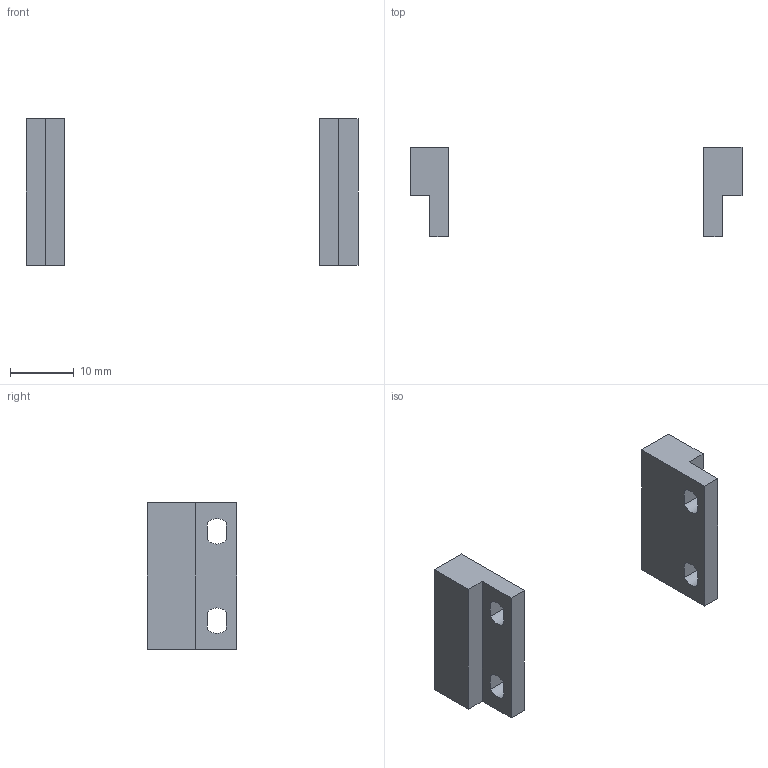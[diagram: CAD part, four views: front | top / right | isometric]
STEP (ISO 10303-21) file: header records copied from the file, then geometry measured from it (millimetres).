
FILE_DESCRIPTION(/* description */ (''),/* implementation_level */ '2;1');
FILE_NAME(/* name */ 'X-B530~1',/* time_stamp */ '2014-02-14T19:45:10+01:00',/* author */ (''),/* organization */ (''),/* preprocessor_version */ 'ST-DEVELOPER v14',/* originating_system */ '',/* authorisation */ '');
FILE_SCHEMA (('AUTOMOTIVE_DESIGN'));
Length unit declared in the file: millimetre
Products named in the file (1): Document
Bounding box: 52 x 14 x 23 mm (x, y, z)
Volume: 2826.6 mm3; surface area: 2150.7 mm2
Topology: 2 solids, 2 shells, 32 faces, 84 edges, 56 vertices
Faces by surface type: plane 16, bspline 16
Entity records: 2047 total; most frequent: CARTESIAN_POINT 910, B_SPLINE_CURVE_WITH_KNOTS 204, ORIENTED_EDGE 168, PCURVE 168, DEFINITIONAL_REPRESENTATION 168, SURFACE_CURVE 84, EDGE_CURVE 84, VERTEX_POINT 56
